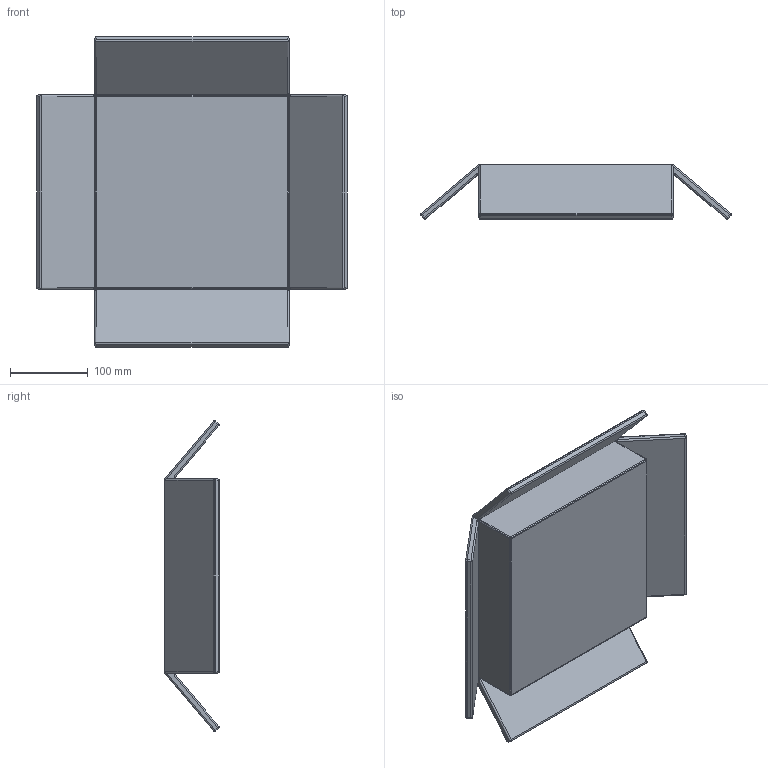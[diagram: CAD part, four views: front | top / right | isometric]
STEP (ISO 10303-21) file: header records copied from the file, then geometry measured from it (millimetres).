
FILE_DESCRIPTION (( 'STEP AP203' ), '1' );
FILE_NAME ('ORIGINAL TABLE BOX 40x40x7.STEP', '2023-09-16T12:34:21', ( '' ), ( '' ), 'SwSTEP 2.0', 'SolidWorks 2023', '' );
FILE_SCHEMA (( 'CONFIG_CONTROL_DESIGN' ));
Length unit declared in the file: millimetre
Products named in the file (2): ORIGINAL TABLE BOX 40x40x7; Group1^ORIGINAL TABLE BOX 40x40x7
Assembly tree (1 placements, depth 2):
  ORIGINAL TABLE BOX 40x40x7
    Group1^ORIGINAL TABLE BOX 40x40x7
Bounding box: 400 x 70 x 400 mm (x, y, z)
Volume: 2266169.8 mm3; surface area: 437384.5 mm2
Topology: 1 solids, 1 shells, 150 faces, 348 edges, 188 vertices
Faces by surface type: cylinder 64, plane 34, torus 32, sphere 20
Entity records: 4392 total; most frequent: CARTESIAN_POINT 1010, DIRECTION 692, ORIENTED_EDGE 672, EDGE_CURVE 336, AXIS2_PLACEMENT_3D 278, VERTEX_POINT 188, ADVANCED_FACE 150, FACE_OUTER_BOUND 150
